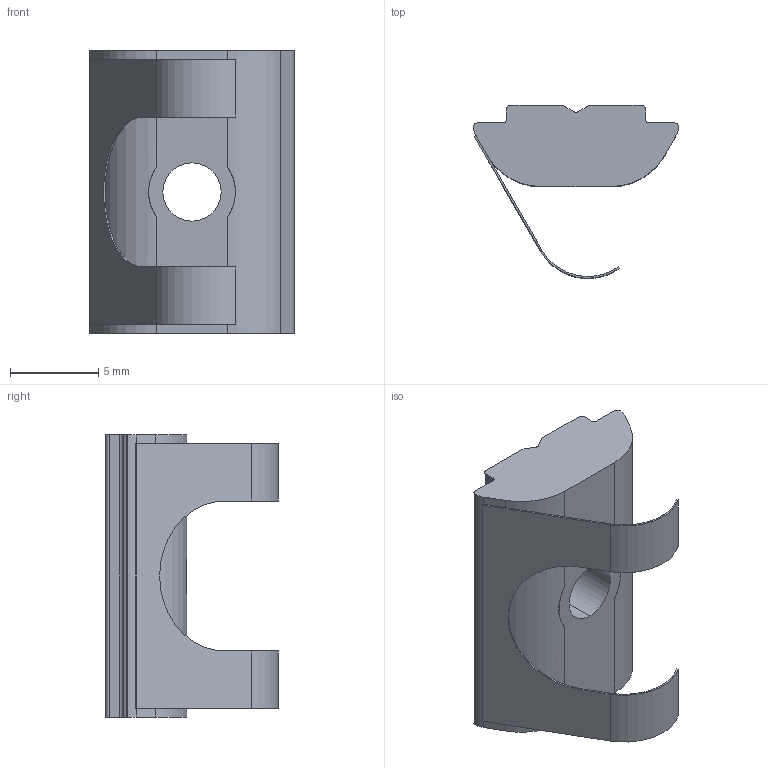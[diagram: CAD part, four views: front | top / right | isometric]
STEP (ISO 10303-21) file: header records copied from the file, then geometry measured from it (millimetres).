
FILE_DESCRIPTION (( 'STEP AP203' ), '1' );
FILE_NAME ('331005_Nutenstein Nut 8 M4 einschwenkbar mit Federblech.step', '2022-01-31T10:39:16', ( '' ), ( '' ), 'SwSTEP 2.0', 'SolidWorks 2021', '' );
FILE_SCHEMA (( 'CONFIG_CONTROL_DESIGN' ));
Length unit declared in the file: millimetre
Products named in the file (1): 331005_Nutenstein Nut 8 M4 einschwenkbar mit Federblech
Bounding box: 11.6 x 9.8 x 16 mm (x, y, z)
Volume: 651 mm3; surface area: 746.7 mm2
Topology: 1 solids, 1 shells, 50 faces, 143 edges, 94 vertices
Faces by surface type: plane 28, cylinder 22
Entity records: 1734 total; most frequent: CARTESIAN_POINT 330, ORIENTED_EDGE 286, DIRECTION 275, EDGE_CURVE 143, VERTEX_POINT 94, VECTOR 93, LINE 93, AXIS2_PLACEMENT_3D 91
